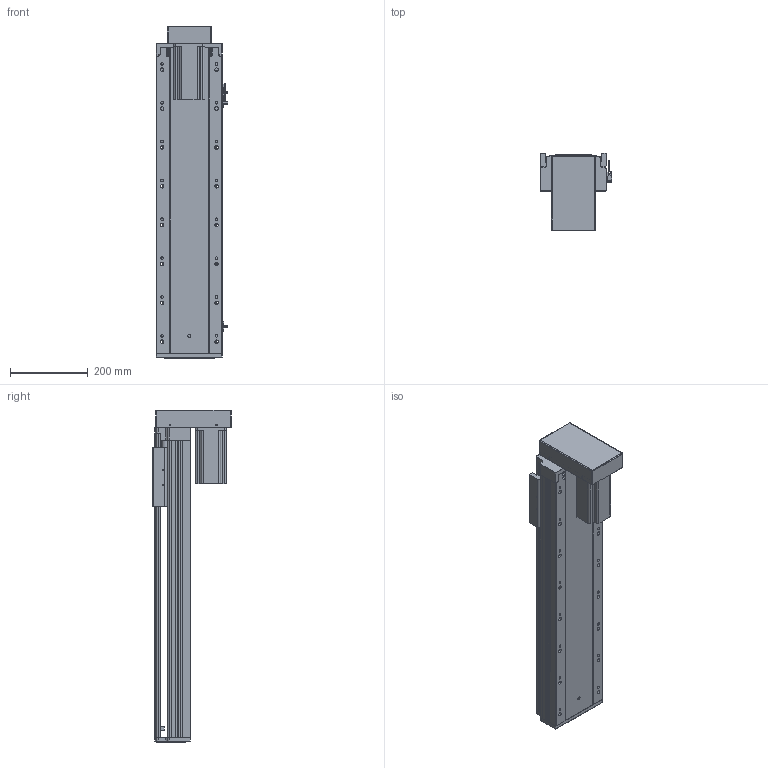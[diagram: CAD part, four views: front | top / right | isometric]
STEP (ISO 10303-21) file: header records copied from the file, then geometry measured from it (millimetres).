
FILE_DESCRIPTION (( 'STEP AP203' ), '1' );
FILE_NAME ('RY170-L2510-300-BK.SLDASM_550.step', '2021-03-12T08:57:58', ( '盈信电脑' ), ( '东莞市道滘镇水果街19号' ), 'SwSTEP 2.0', 'SolidWorks 2012', '' );
FILE_SCHEMA (( 'CONFIG_CONTROL_DESIGN' ));
Products named in the file (14): RY170-L2510-300-BK.SLDASM_550; RY170狟殏萇儂欶; 怢湛750W萇儂ㄗ80遺ㄘ; RY170-狟殏750W萇儂傷; 滅袉蝶18-20; RY170-狟殏萇儂假蚾啣; 滅袉蝶18-10; RY170转折电机端支撑座(7004); 覜茼ん672; RY170外置感应片(200共用）; RY170綴裔啣; RY170-300倰第裔啣-BK_550; 改造-RY170铝滑块25丝杆螺母; RY170-300倰第菁釱-BK_550
Assembly tree (15 placements, depth 3):
  RY170-L2510-300-BK.SLDASM_550
    RY170-300倰第菁釱-BK_550
    改造-RY170铝滑块25丝杆螺母
    RY170-300倰第裔啣-BK_550
    RY170綴裔啣
    覜茼ん672  x3
    RY170外置感应片(200共用）
    滅袉蝶18-20
    滅袉蝶18-10
    RY170转折电机端支撑座(7004)
    RY170-狟殏750W萇儂傷
      RY170-狟殏萇儂假蚾啣
      RY170狟殏萇儂欶
      怢湛750W萇儂ㄗ80遺ㄘ
Bounding box: 183.7 x 200.8 x 854.5 mm (x, y, z)
Volume: 5305642.1 mm3; surface area: 1573752.8 mm2
Topology: 14 solids, 14 shells, 2128 faces, 6137 edges, 3958 vertices
Faces by surface type: plane 1082, cylinder 873, cone 154, bspline 19
Entity records: 69378 total; most frequent: CARTESIAN_POINT 16884, ORIENTED_EDGE 11058, DIRECTION 10119, EDGE_CURVE 5529, VERTEX_POINT 3638, LINE 3417, VECTOR 3417, AXIS2_PLACEMENT_3D 3351
